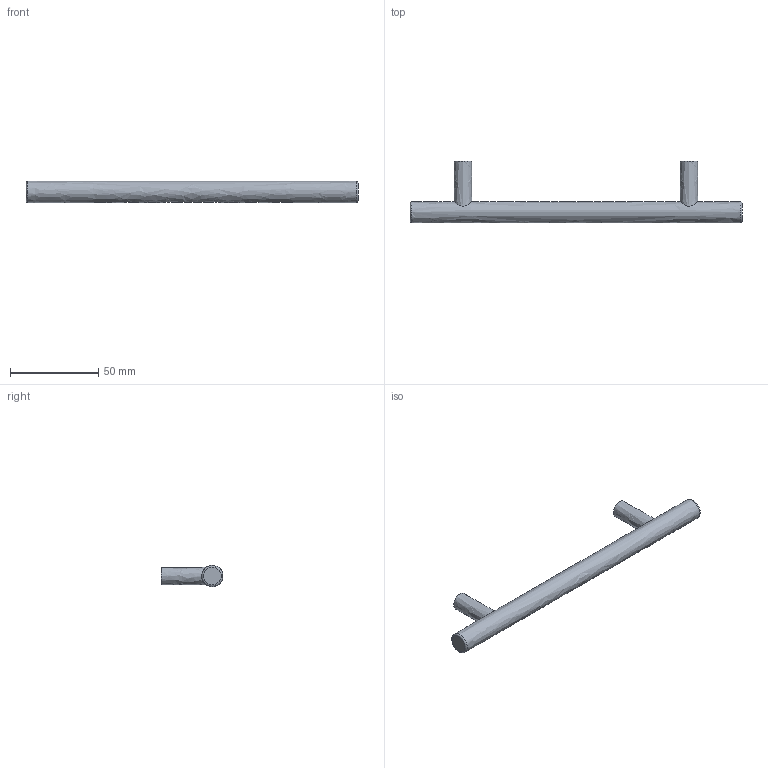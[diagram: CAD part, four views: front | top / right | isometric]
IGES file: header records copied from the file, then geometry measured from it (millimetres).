
Start section: Data from Parasolid IGES Translator 15.0.47, Copyright(c) 2006 Siemens P LM Software. All Rights Reserved.
Global section: file name: 9070750.igs; native system:  By UGS Corp.; preprocessor: XPlus GENERIC/IGES 3.0; author: Noname; organization: Noname; date: 20140123.103837; units: millimetre
Bounding box: 188 x 35 x 12 mm (x, y, z)
Surface area: 8985.2 mm2 (no closed solid volume)
Topology: 0 solids, 0 shells, 13 faces, 42 edges, 34 vertices
Faces by surface type: revolution 7, extrusion 6
